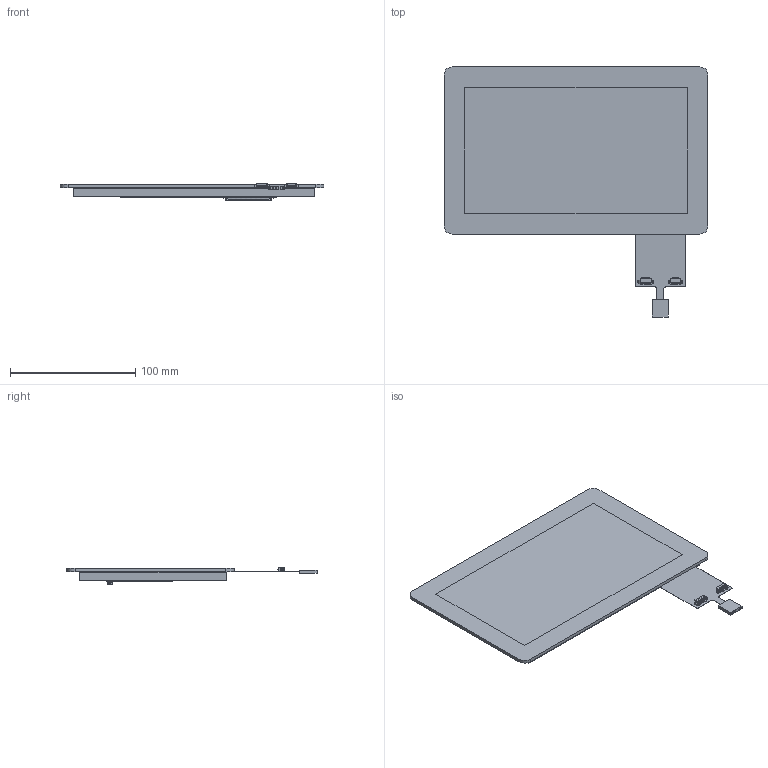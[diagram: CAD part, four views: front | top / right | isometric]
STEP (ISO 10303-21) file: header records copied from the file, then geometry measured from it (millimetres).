
FILE_DESCRIPTION (( 'STEP AP214' ), '1' );
FILE_NAME ('PDC080W-001 REV P1 STEP.STEP', '2025-10-17T14:32:34', ( '' ), ( '' ), 'SwSTEP 2.0', 'SolidWorks 2020', '' );
FILE_SCHEMA (( 'AUTOMOTIVE_DESIGN' ));
Length unit declared in the file: millimetre
Products named in the file (5): K3D-FI-X30SSLA-HF-V1_JAE_Proprietary; 532610571; 532610671; PDC080W-001 REV P1 STEP; PDC080W-001 DISPLAY
Assembly tree (4 placements, depth 2):
  PDC080W-001 REV P1 STEP
    PDC080W-001 DISPLAY
    K3D-FI-X30SSLA-HF-V1_JAE_Proprietary
    532610671
    532610571
Bounding box: 211.02 x 199.92 x 13.7 mm (x, y, z)
Volume: 238639.5 mm3; surface area: 172508.8 mm2
Topology: 9 solids, 9 shells, 2195 faces, 6167 edges, 4079 vertices
Faces by surface type: plane 1857, cylinder 338
Entity records: 70154 total; most frequent: CARTESIAN_POINT 12960, ORIENTED_EDGE 12334, DIRECTION 10997, EDGE_CURVE 6167, LINE 5421, VECTOR 5421, VERTEX_POINT 4079, AXIS2_PLACEMENT_3D 2788
